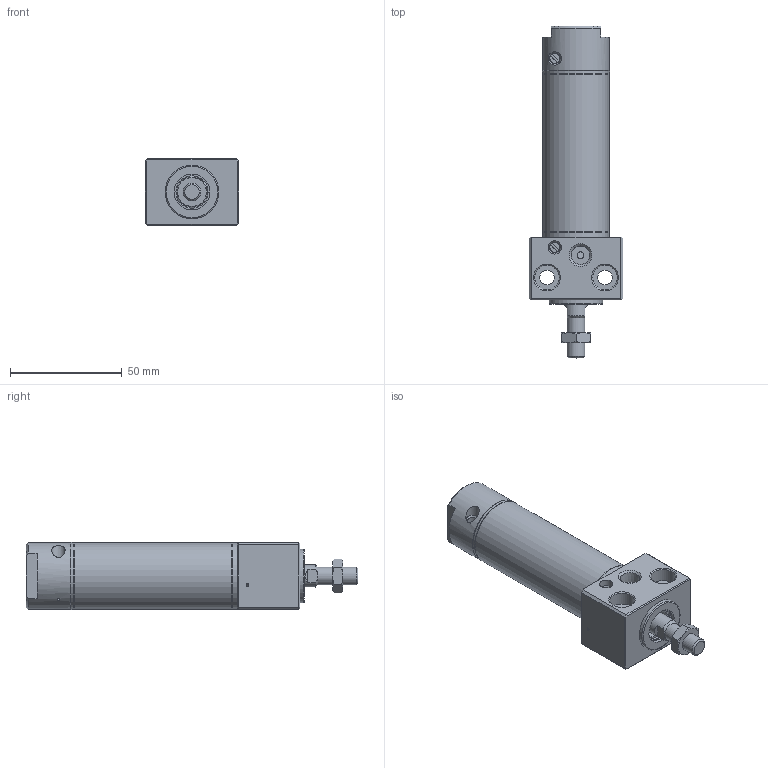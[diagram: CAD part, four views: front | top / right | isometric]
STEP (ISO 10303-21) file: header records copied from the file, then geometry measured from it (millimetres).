
FILE_DESCRIPTION((''),'2;1');
FILE_NAME('I:\3D電子目錄\氣缸\DBS\DBS\DBS25x25-C.stp','2007-10-08T08:34:00',('Administrator'),(''),'Autodesk Inventor 2008','Autodesk Inventor 2008','');
FILE_SCHEMA(('AUTOMOTIVE_DESIGN { 1 0 10303 214 1 1 1 1 }'));
Length unit declared in the file: millimetre
Products named in the file (1): DBS25x25-C
Bounding box: 42 x 148.6 x 30 mm (x, y, z)
Volume: 69333.2 mm3; surface area: 32601.8 mm2
Topology: 8 solids, 8 shells, 204 faces, 409 edges, 251 vertices
Faces by surface type: plane 90, cone 50, cylinder 48, bspline 13, torus 3
Full cylindrical faces by diameter (mm): 1.2 x1, 1.9 x2, 3 x3, 3.3 x2, 4.6 x2, 5 x3, 6 x3, 7 x1, 8 x2, 10 x1, 10.5 x1, 12 x1, 13 x2, 14 x1, 15.5 x2, 16 x2, 17 x1, 18 x2, 23 x2, 24 x1, 25 x1, 25.5 x2, 27.2 x6, 30 x4
Entity records: 5257 total; most frequent: CARTESIAN_POINT 1377, DIRECTION 812, ORIENTED_EDGE 622, AXIS2_PLACEMENT_3D 359, EDGE_LOOP 349, EDGE_CURVE 311, VERTEX_POINT 242, FACE_OUTER_BOUND 204
